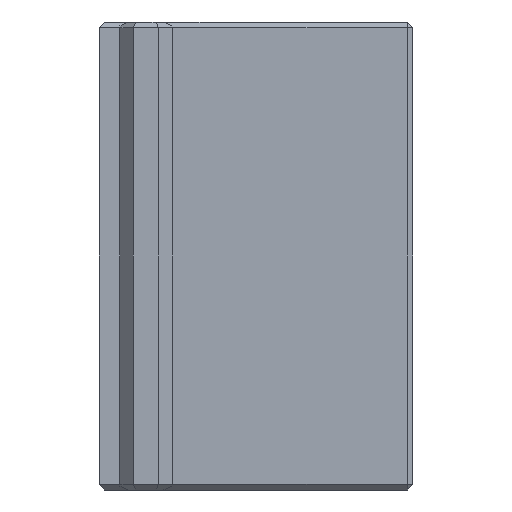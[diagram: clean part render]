
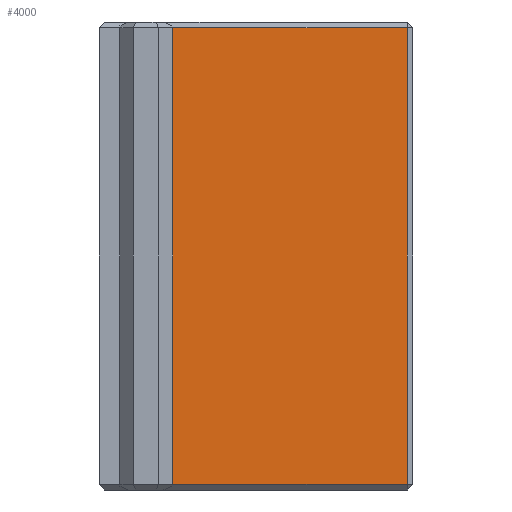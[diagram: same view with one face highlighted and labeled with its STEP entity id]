
A CAD part, left-side view. The second image highlights one B-rep face of the part: STEP entity #4000.
In plain terms, the highlighted planar face has unit normal (-1, 0, 0).
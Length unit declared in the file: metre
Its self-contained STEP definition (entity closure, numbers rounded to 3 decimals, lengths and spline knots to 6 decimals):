
#415=ORIENTED_EDGE('',*,*,#1614,.F.);
#416=ORIENTED_EDGE('',*,*,#1615,.T.);
#417=ORIENTED_EDGE('',*,*,#1616,.T.);
#418=ORIENTED_EDGE('',*,*,#1617,.T.);
#1614=EDGE_CURVE('',#2205,#2206,#2536,.T.);
#1615=EDGE_CURVE('',#2205,#2207,#2537,.T.);
#1616=EDGE_CURVE('',#2207,#2208,#2538,.T.);
#1617=EDGE_CURVE('',#2208,#2206,#2539,.T.);
#2205=VERTEX_POINT('',#6039);
#2206=VERTEX_POINT('',#6040);
#2207=VERTEX_POINT('',#6042);
#2208=VERTEX_POINT('',#6044);
#2536=LINE('',#6038,#2996);
#2537=LINE('',#6041,#2997);
#2538=LINE('',#6043,#2998);
#2539=LINE('',#6045,#2999);
#2996=VECTOR('',#4808,1.);
#2997=VECTOR('',#4809,1.);
#2998=VECTOR('',#4810,1.);
#2999=VECTOR('',#4811,1.);
#3369=EDGE_LOOP('',(#415,#416,#417,#418));
#3607=FACE_BOUND('',#3369,.T.);
#3837=PLANE('',#4297);
#4000=ADVANCED_FACE('',(#3607),#3837,.T.);
#4297=AXIS2_PLACEMENT_3D('',#6037,#4806,#4807);
#4806=DIRECTION('',(-1.,0.,0.));
#4807=DIRECTION('',(0.,0.,1.));
#4808=DIRECTION('',(0.,0.,1.));
#4809=DIRECTION('',(0.,-1.,0.));
#4810=DIRECTION('',(0.,0.,1.));
#4811=DIRECTION('',(0.,1.,0.));
#6037=CARTESIAN_POINT('',(-0.0964,0.06445,0.0325));
#6038=CARTESIAN_POINT('',(-0.0964,0.0524,-0.010002));
#6039=CARTESIAN_POINT('',(-0.0964,0.0524,-0.009));
#6040=CARTESIAN_POINT('',(-0.0964,0.0524,0.074));
#6041=CARTESIAN_POINT('',(-0.0964,0.00745,-0.009));
#6042=CARTESIAN_POINT('',(-0.0964,0.00845,-0.009));
#6043=CARTESIAN_POINT('',(-0.0964,0.00845,0.0325));
#6044=CARTESIAN_POINT('',(-0.0964,0.00845,0.074));
#6045=CARTESIAN_POINT('',(-0.0964,0.06445,0.074));
